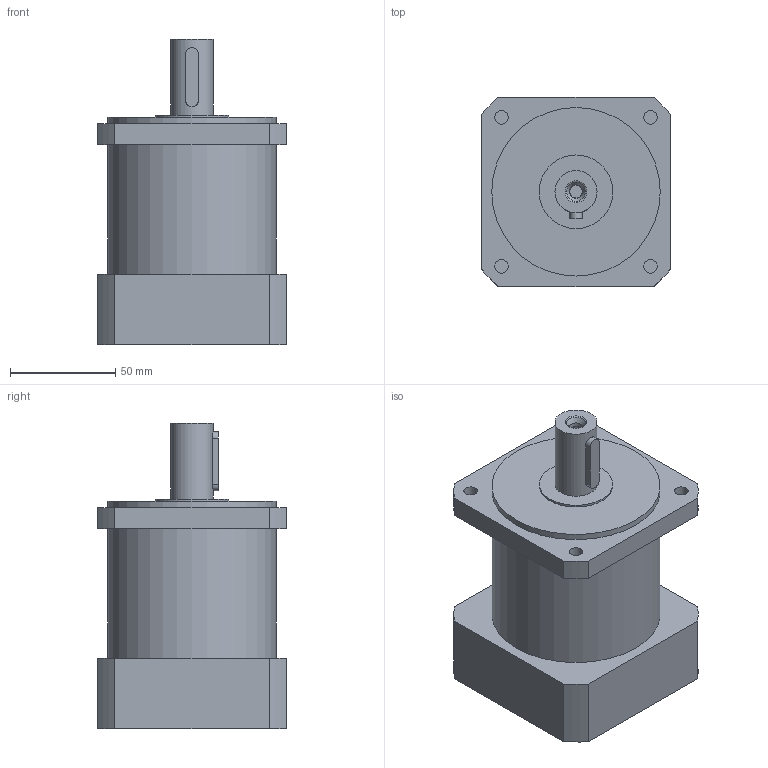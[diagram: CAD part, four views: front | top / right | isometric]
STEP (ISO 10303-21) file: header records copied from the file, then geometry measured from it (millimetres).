
FILE_DESCRIPTION((' Parasolid data model '),'2;1');
FILE_NAME('GSSL','1999-11-09T08:33:24+00:00',(' GSSL '),(' GSSL Pune '),'','GSSL Pune','Author');
FILE_SCHEMA(('CONFIG_CONTROL_DESIGN'));
Length unit declared in the file: millimetre
Bounding box: 90 x 90 x 145 mm (x, y, z)
Volume: 654877.9 mm3; surface area: 59819.1 mm2
Topology: 1 solids, 1 shells, 54 faces, 122 edges, 82 vertices
Faces by surface type: cylinder 26, plane 25, cone 3
Full cylindrical faces by diameter (mm): 6 x5, 6.38 x1, 6.5 x4, 19 x1, 20 x1, 35 x1, 80 x3
Entity records: 1515 total; most frequent: CARTESIAN_POINT 366, DIRECTION 208, ORIENTED_EDGE 188, EDGE_LOOP 94, EDGE_CURVE 94, AXIS2_PLACEMENT_3D 84, VERTEX_POINT 74, ADVANCED_FACE 54
